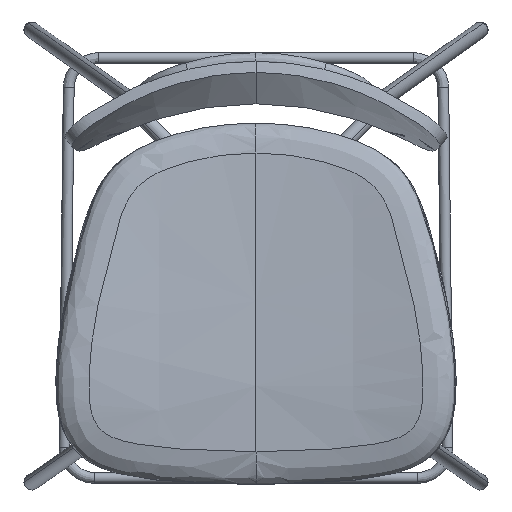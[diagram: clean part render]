
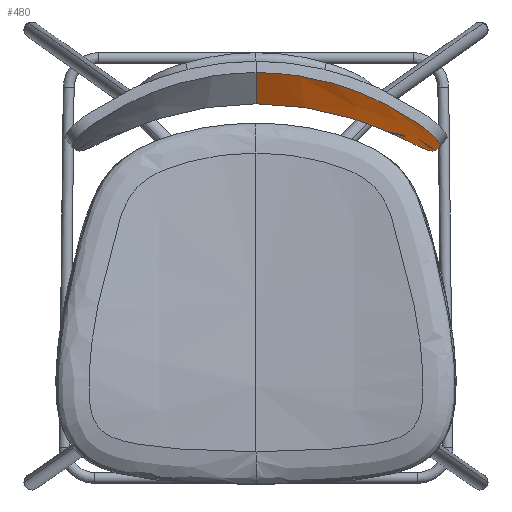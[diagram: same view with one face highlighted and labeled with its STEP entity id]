
A CAD part, top view. The second image highlights one B-rep face of the part: STEP entity #480.
In plain terms, the highlighted free-form (B-spline) face has degree [3, 2] with [5, 3] control points.
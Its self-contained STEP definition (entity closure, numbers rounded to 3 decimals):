
#256=B_SPLINE_CURVE_WITH_KNOTS('',3,(#6776,#6777,#6778,#6779,#6780,#6781,
#6782,#6783,#6784,#6785,#6786,#6787,#6788,#6789,#6790,#6791,#6792,#6793,
#6794,#6795,#6796,#6797,#6798,#6799,#6800,#6801,#6802,#6803,#6804,#6805,
#6806,#6807,#6808,#6809,#6810,#6811),.UNSPECIFIED.,.F.,.F.,(4,2,3,2,2,2,
2,3,3,2,2,2,2,3,2,4),(-142.402,-73.146,-3.882,
-3.638,-3.393,-3.269,-3.139,-2.882,
25.85,26.111,26.242,26.365,26.608,
26.85,115.079,203.244),.UNSPECIFIED.);
#480=ADVANCED_FACE('',(#674),#2638,.T.);
#674=FACE_OUTER_BOUND('',#870,.T.);
#870=EDGE_LOOP('',(#1578,#1579));
#1578=ORIENTED_EDGE('',*,*,#2052,.T.);
#1579=ORIENTED_EDGE('',*,*,#2050,.T.);
#2050=EDGE_CURVE('',#2557,#2556,#2322,.T.);
#2052=EDGE_CURVE('',#2556,#2557,#256,.T.);
#2322=(
BOUNDED_CURVE()
B_SPLINE_CURVE(3,(#6762,#6763,#6764,#6765,#6766,#6767,#6768),
 .UNSPECIFIED.,.F.,.F.)
B_SPLINE_CURVE_WITH_KNOTS((4,3,4),(-140.114,-70.057,
0.),.UNSPECIFIED.)
CURVE()
GEOMETRIC_REPRESENTATION_ITEM()
RATIONAL_B_SPLINE_CURVE((1.,0.965,0.931,0.898,
0.931,0.965,1.))
REPRESENTATION_ITEM('')
);
#2556=VERTEX_POINT('',#6758);
#2557=VERTEX_POINT('',#6759);
#2638=(
BOUNDED_SURFACE()
B_SPLINE_SURFACE(3,2,((#6548,#6549,#6550),(#6551,#6552,#6553),(#6554,#6555,
#6556),(#6557,#6558,#6559),(#6560,#6561,#6562)),.UNSPECIFIED.,.F.,.F.,.F.)
B_SPLINE_SURFACE_WITH_KNOTS((4,1,4),(3,3),(-5.332,70.057,
145.446),(-3.978,234.884),.UNSPECIFIED.)
GEOMETRIC_REPRESENTATION_ITEM()
RATIONAL_B_SPLINE_SURFACE(((1.003,0.898,0.898),
(1.003,0.898,0.898),(1.003,
0.898,0.898),(1.003,0.898,
0.898),(1.003,0.898,0.898)))
REPRESENTATION_ITEM('')
SURFACE()
);
#6548=CARTESIAN_POINT('',(189.507,139.669,903.515));
#6549=CARTESIAN_POINT('',(105.876,202.929,888.902));
#6550=CARTESIAN_POINT('',(0.,202.929,888.902));
#6551=CARTESIAN_POINT('',(189.507,143.816,928.328));
#6552=CARTESIAN_POINT('',(105.876,207.076,913.714));
#6553=CARTESIAN_POINT('',(0.,207.076,913.714));
#6554=CARTESIAN_POINT('',(189.507,153.615,977.605));
#6555=CARTESIAN_POINT('',(105.876,216.875,962.992));
#6556=CARTESIAN_POINT('',(0.,216.875,962.992));
#6557=CARTESIAN_POINT('',(189.507,166.422,1026.187));
#6558=CARTESIAN_POINT('',(105.876,229.682,1011.574));
#6559=CARTESIAN_POINT('',(0.,229.682,1011.574));
#6560=CARTESIAN_POINT('',(189.507,173.578,1050.305));
#6561=CARTESIAN_POINT('',(105.876,236.838,1035.691));
#6562=CARTESIAN_POINT('',(0.,236.838,1035.691));
#6758=CARTESIAN_POINT('',(0.,203.82,894.164));
#6759=CARTESIAN_POINT('',(0.,235.331,1030.572));
#6762=CARTESIAN_POINT('',(0.,235.331,1030.572));
#6763=CARTESIAN_POINT('',(0.,228.78,1008.137));
#6764=CARTESIAN_POINT('',(0.,222.879,985.552));
#6765=CARTESIAN_POINT('',(0.,217.627,962.818));
#6766=CARTESIAN_POINT('',(0.,212.375,940.083));
#6767=CARTESIAN_POINT('',(0.,207.773,917.199));
#6768=CARTESIAN_POINT('',(0.,203.82,894.164));
#6776=CARTESIAN_POINT('',(0.,203.82,894.164));
#6777=CARTESIAN_POINT('',(23.683,203.82,894.164));
#6778=CARTESIAN_POINT('',(46.989,201.262,895.363));
#6779=CARTESIAN_POINT('',(91.817,191.58,899.913));
#6780=CARTESIAN_POINT('',(113.343,184.459,903.262));
#6781=CARTESIAN_POINT('',(133.581,175.38,907.55));
#6782=CARTESIAN_POINT('',(139.282,172.822,908.758));
#6783=CARTESIAN_POINT('',(144.911,170.174,910.527));
#6784=CARTESIAN_POINT('',(155.532,165.106,915.673));
#6785=CARTESIAN_POINT('',(160.555,162.669,919.06));
#6786=CARTESIAN_POINT('',(167.322,159.595,925.846));
#6787=CARTESIAN_POINT('',(169.428,158.683,928.396));
#6788=CARTESIAN_POINT('',(173.213,157.184,933.913));
#6789=CARTESIAN_POINT('',(174.902,156.597,936.924));
#6790=CARTESIAN_POINT('',(179.287,155.396,946.435));
#6791=CARTESIAN_POINT('',(181.349,155.318,953.462));
#6792=CARTESIAN_POINT('',(182.712,155.956,961.093));
#6793=CARTESIAN_POINT('',(184.39,156.743,970.49));
#6794=CARTESIAN_POINT('',(185.724,157.869,979.88));
#6795=CARTESIAN_POINT('',(186.737,159.367,989.34));
#6796=CARTESIAN_POINT('',(187.241,160.113,994.046));
#6797=CARTESIAN_POINT('',(187.241,161.246,998.604));
#6798=CARTESIAN_POINT('',(186.132,163.698,1004.851));
#6799=CARTESIAN_POINT('',(185.574,164.645,1006.84));
#6800=CARTESIAN_POINT('',(184.062,166.745,1010.44));
#6801=CARTESIAN_POINT('',(183.105,167.911,1012.098));
#6802=CARTESIAN_POINT('',(179.822,171.501,1016.32));
#6803=CARTESIAN_POINT('',(177.15,173.974,1018.198));
#6804=CARTESIAN_POINT('',(171.401,178.742,1020.797));
#6805=CARTESIAN_POINT('',(168.288,181.065,1021.521));
#6806=CARTESIAN_POINT('',(165.154,183.222,1021.897));
#6807=CARTESIAN_POINT('',(141.765,199.315,1024.709));
#6808=CARTESIAN_POINT('',(115.863,212.358,1026.875));
#6809=CARTESIAN_POINT('',(60.273,230.369,1029.805));
#6810=CARTESIAN_POINT('',(30.572,235.331,1030.572));
#6811=CARTESIAN_POINT('',(0.,235.331,1030.572));
